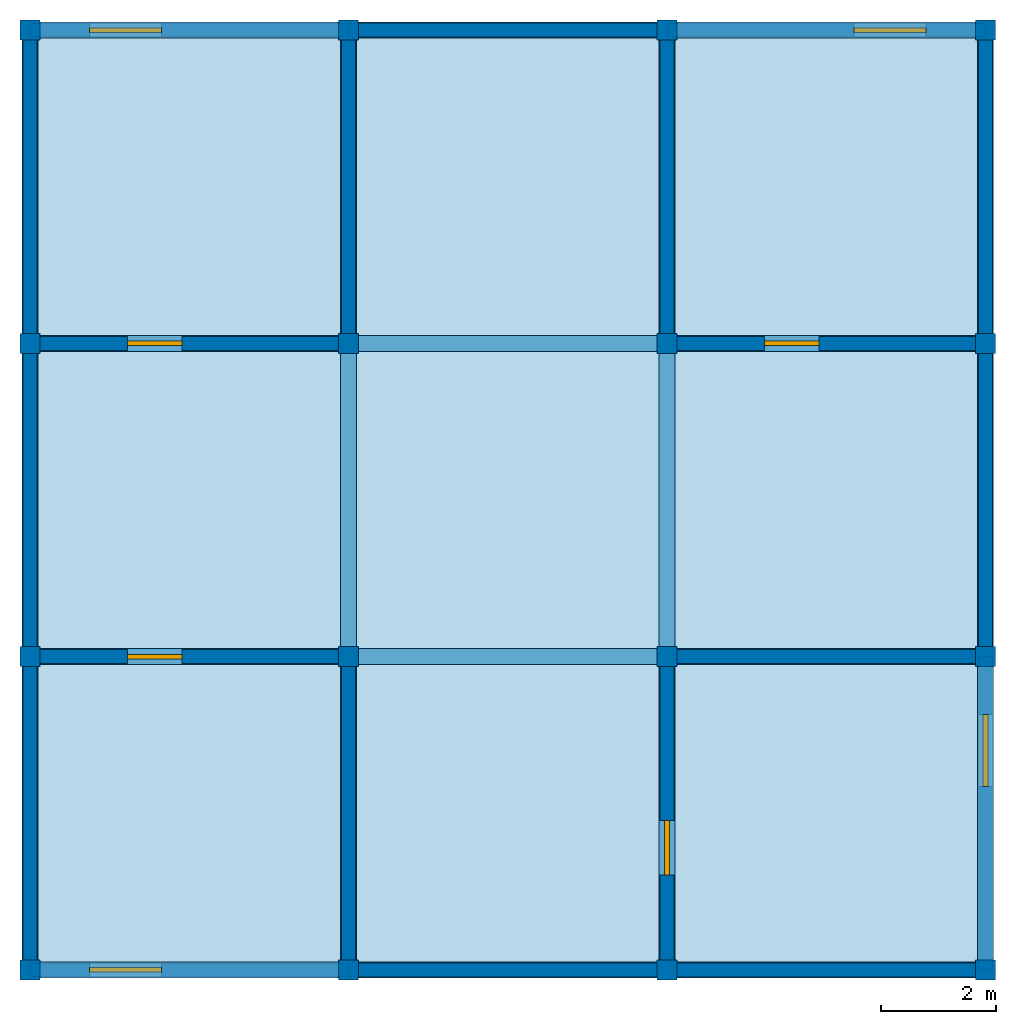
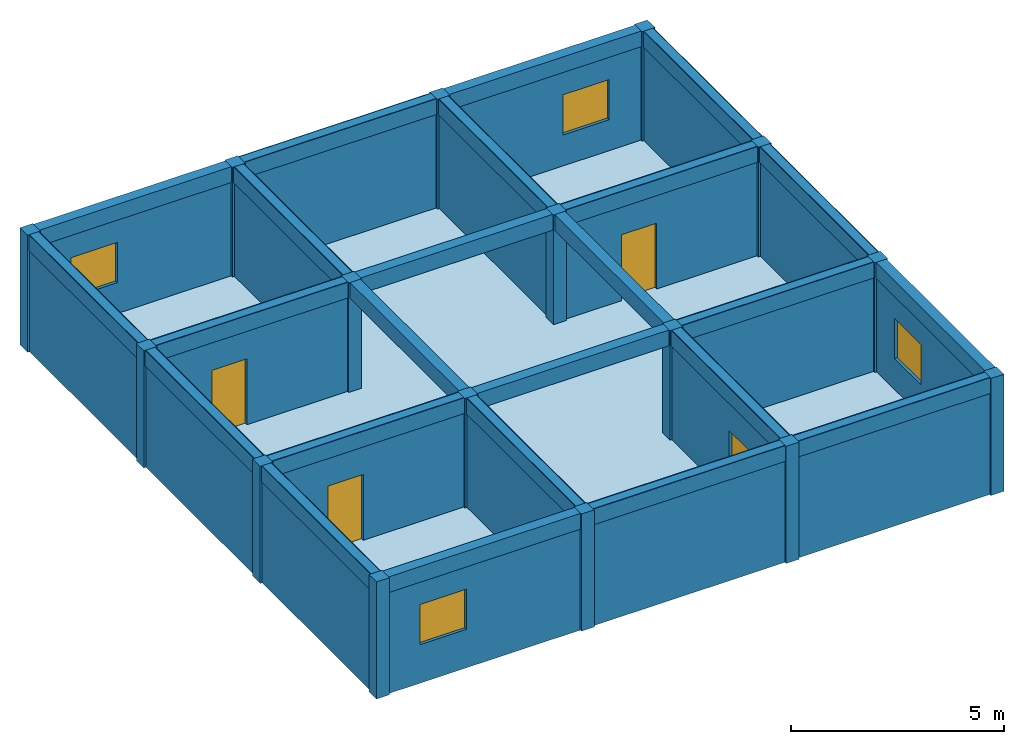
# One storey: 24 beams, 20 walls, 16 columns, 4 doors, 4 windows, 1 slab, 8 openings.
"""IFC4X3 building model written with IfcOpenShell, lengths in metres."""

from ifc_helpers import new_model, si_unit, frame, origin_with_axes, origin_2d, place, context, project, spatial, rectangle, extrude, material, element, fill, save


model = new_model("IFC4X3")

# Units and contexts
model_context = context("Model", 3, precision=1e-05, world=origin_with_axes())
ifc_project = project(units=[si_unit("LENGTHUNIT", "METRE"), si_unit("AREAUNIT", "SQUARE_METRE"), si_unit("VOLUMEUNIT", "CUBIC_METRE")], contexts=[model_context])

# Site, building, storey
site = spatial("IfcSite", under=ifc_project, Name="La Serena Parcel", CompositionType="ELEMENT")
building = spatial("IfcBuilding", under=site, Name="Atlas Building", CompositionType="ELEMENT")
storey = spatial("IfcBuildingStorey", under=building, Name="Level 7", CompositionType="ELEMENT", Elevation=20.09)

# Columns
ifc_material_1 = material(Name="Concrete")
column_1_placement = place(None, frame((-8.31, -8.175, 20.094), z_axis=(0.0, 0.0, 1.0), x_axis=(1.0, 0.0, 0.0)))
element("IfcColumn", 1, at=column_1_placement, inside=storey, material=ifc_material_1, Name="Column 7.1", ObjectType="Structural Column", PredefinedType="PILASTER", context=model_context, shape_type="SweptSolid", body=[
    extrude(rectangle(XDim=0.35, YDim=0.35, at=origin_2d()), origin_with_axes(), (0.0, 0.0, 1.0), 3.349),
])
column_2_placement = place(None, frame((-8.31, -2.725, 20.094), z_axis=(0.0, 0.0, 1.0), x_axis=(1.0, 0.0, 0.0)))
element("IfcColumn", 2, at=column_2_placement, inside=storey, material=ifc_material_1, Name="Column 7.2", ObjectType="Core Column", PredefinedType="PILASTER", context=model_context, shape_type="SweptSolid", body=[
    extrude(rectangle(XDim=0.35, YDim=0.35, at=origin_2d()), origin_with_axes(), (0.0, 0.0, 1.0), 3.349),
])
column_3_placement = place(None, frame((-8.31, 2.725, 20.094), z_axis=(0.0, 0.0, 1.0), x_axis=(1.0, 0.0, 0.0)))
element("IfcColumn", 3, at=column_3_placement, inside=storey, material=ifc_material_1, Name="Column 7.3", ObjectType="Corner Column", PredefinedType="NOTDEFINED", context=model_context, shape_type="SweptSolid", body=[
    extrude(rectangle(XDim=0.35, YDim=0.35, at=origin_2d()), origin_with_axes(), (0.0, 0.0, 1.0), 3.349),
])
column_4_placement = place(None, frame((-8.31, 8.175, 20.094), z_axis=(0.0, 0.0, 1.0), x_axis=(1.0, 0.0, 0.0)))
element("IfcColumn", 4, at=column_4_placement, inside=storey, material=ifc_material_1, Name="Column 7.4", ObjectType="Facade Column", PredefinedType="PILASTER", context=model_context, shape_type="SweptSolid", body=[
    extrude(rectangle(XDim=0.35, YDim=0.35, at=origin_2d()), origin_with_axes(), (0.0, 0.0, 1.0), 3.349),
])
column_5_placement = place(None, frame((-2.77, -8.175, 20.094), z_axis=(0.0, 0.0, 1.0), x_axis=(1.0, 0.0, 0.0)))
element("IfcColumn", 5, at=column_5_placement, inside=storey, material=ifc_material_1, Name="Column 7.5", ObjectType="Corner Column", PredefinedType="USERDEFINED", context=model_context, shape_type="SweptSolid", body=[
    extrude(rectangle(XDim=0.35, YDim=0.35, at=origin_2d()), origin_with_axes(), (0.0, 0.0, 1.0), 3.349),
])
column_6_placement = place(None, frame((-2.77, -2.725, 20.094), z_axis=(0.0, 0.0, 1.0), x_axis=(1.0, 0.0, 0.0)))
element("IfcColumn", 6, at=column_6_placement, inside=storey, material=ifc_material_1, Name="Column 7.6", ObjectType="Facade Column", PredefinedType="NOTDEFINED", context=model_context, shape_type="SweptSolid", body=[
    extrude(rectangle(XDim=0.35, YDim=0.35, at=origin_2d()), origin_with_axes(), (0.0, 0.0, 1.0), 3.349),
])
column_7_placement = place(None, frame((-2.77, 2.725, 20.094), z_axis=(0.0, 0.0, 1.0), x_axis=(1.0, 0.0, 0.0)))
element("IfcColumn", 7, at=column_7_placement, inside=storey, material=ifc_material_1, Name="Column 7.7", ObjectType="Core Column", PredefinedType="PILASTER", context=model_context, shape_type="SweptSolid", body=[
    extrude(rectangle(XDim=0.35, YDim=0.35, at=origin_2d()), origin_with_axes(), (0.0, 0.0, 1.0), 3.349),
])
column_8_placement = place(None, frame((-2.77, 8.175, 20.094), z_axis=(0.0, 0.0, 1.0), x_axis=(1.0, 0.0, 0.0)))
element("IfcColumn", 8, at=column_8_placement, inside=storey, material=ifc_material_1, Name="Column 7.8", ObjectType="Core Column", PredefinedType="USERDEFINED", context=model_context, shape_type="SweptSolid", body=[
    extrude(rectangle(XDim=0.35, YDim=0.35, at=origin_2d()), origin_with_axes(), (0.0, 0.0, 1.0), 3.349),
])
column_9_placement = place(None, frame((2.77, -8.175, 20.094), z_axis=(0.0, 0.0, 1.0), x_axis=(1.0, 0.0, 0.0)))
element("IfcColumn", 9, at=column_9_placement, inside=storey, material=ifc_material_1, Name="Column 7.9", ObjectType="Core Column", PredefinedType="PILASTER", context=model_context, shape_type="SweptSolid", body=[
    extrude(rectangle(XDim=0.35, YDim=0.35, at=origin_2d()), origin_with_axes(), (0.0, 0.0, 1.0), 3.349),
])
column_10_placement = place(None, frame((2.77, -2.725, 20.094), z_axis=(0.0, 0.0, 1.0), x_axis=(1.0, 0.0, 0.0)))
element("IfcColumn", 10, at=column_10_placement, inside=storey, material=ifc_material_1, Name="Column 7.10", ObjectType="Corner Column", PredefinedType="PILASTER", context=model_context, shape_type="SweptSolid", body=[
    extrude(rectangle(XDim=0.35, YDim=0.35, at=origin_2d()), origin_with_axes(), (0.0, 0.0, 1.0), 3.349),
])
column_11_placement = place(None, frame((2.77, 2.725, 20.094), z_axis=(0.0, 0.0, 1.0), x_axis=(1.0, 0.0, 0.0)))
element("IfcColumn", 11, at=column_11_placement, inside=storey, material=ifc_material_1, Name="Column 7.11", ObjectType="Core Column", PredefinedType="COLUMN", context=model_context, shape_type="SweptSolid", body=[
    extrude(rectangle(XDim=0.35, YDim=0.35, at=origin_2d()), origin_with_axes(), (0.0, 0.0, 1.0), 3.349),
])
column_12_placement = place(None, frame((2.77, 8.175, 20.094), z_axis=(0.0, 0.0, 1.0), x_axis=(1.0, 0.0, 0.0)))
element("IfcColumn", 12, at=column_12_placement, inside=storey, material=ifc_material_1, Name="Column 7.12", ObjectType="Corner Column", PredefinedType="USERDEFINED", context=model_context, shape_type="SweptSolid", body=[
    extrude(rectangle(XDim=0.35, YDim=0.35, at=origin_2d()), origin_with_axes(), (0.0, 0.0, 1.0), 3.349),
])
column_13_placement = place(None, frame((8.31, -8.175, 20.094), z_axis=(0.0, 0.0, 1.0), x_axis=(1.0, 0.0, 0.0)))
element("IfcColumn", 13, at=column_13_placement, inside=storey, material=ifc_material_1, Name="Column 7.13", ObjectType="Core Column", PredefinedType="USERDEFINED", context=model_context, shape_type="SweptSolid", body=[
    extrude(rectangle(XDim=0.35, YDim=0.35, at=origin_2d()), origin_with_axes(), (0.0, 0.0, 1.0), 3.349),
])
column_14_placement = place(None, frame((8.31, -2.725, 20.094), z_axis=(0.0, 0.0, 1.0), x_axis=(1.0, 0.0, 0.0)))
element("IfcColumn", 14, at=column_14_placement, inside=storey, material=ifc_material_1, Name="Column 7.14", ObjectType="Structural Column", PredefinedType="COLUMN", context=model_context, shape_type="SweptSolid", body=[
    extrude(rectangle(XDim=0.35, YDim=0.35, at=origin_2d()), origin_with_axes(), (0.0, 0.0, 1.0), 3.349),
])
column_15_placement = place(None, frame((8.31, 2.725, 20.094), z_axis=(0.0, 0.0, 1.0), x_axis=(1.0, 0.0, 0.0)))
element("IfcColumn", 15, at=column_15_placement, inside=storey, material=ifc_material_1, Name="Column 7.15", ObjectType="Corner Column", PredefinedType="PILASTER", context=model_context, shape_type="SweptSolid", body=[
    extrude(rectangle(XDim=0.35, YDim=0.35, at=origin_2d()), origin_with_axes(), (0.0, 0.0, 1.0), 3.349),
])
column_16_placement = place(None, frame((8.31, 8.175, 20.094), z_axis=(0.0, 0.0, 1.0), x_axis=(1.0, 0.0, 0.0)))
element("IfcColumn", 16, at=column_16_placement, inside=storey, material=ifc_material_1, Name="Column 7.16", ObjectType="Facade Column", PredefinedType="USERDEFINED", context=model_context, shape_type="SweptSolid", body=[
    extrude(rectangle(XDim=0.35, YDim=0.35, at=origin_2d()), origin_with_axes(), (0.0, 0.0, 1.0), 3.349),
])

# Beams
ifc_material_2 = material(Name="Timber")
beam_1_placement = place(None, frame((-5.54, -8.175, 22.993), z_axis=(0.0, 0.0, 1.0), x_axis=(1.0, 0.0, 0.0)))
element("IfcBeam", 17, at=beam_1_placement, inside=storey, material=ifc_material_2, Name="Beam 7.1", ObjectType="Primary Beam", PredefinedType="NOTDEFINED", context=model_context, shape_type="SweptSolid", body=[
    extrude(rectangle(XDim=5.54, YDim=0.28, at=origin_2d()), origin_with_axes(), (0.0, 0.0, 1.0), 0.45),
])
beam_2_placement = place(None, frame((0.0, -8.175, 22.993), z_axis=(0.0, 0.0, 1.0), x_axis=(1.0, 0.0, 0.0)))
element("IfcBeam", 18, at=beam_2_placement, inside=storey, material=ifc_material_2, Name="Beam 7.2", ObjectType="Transfer Beam", PredefinedType="T_BEAM", context=model_context, shape_type="SweptSolid", body=[
    extrude(rectangle(XDim=5.54, YDim=0.28, at=origin_2d()), origin_with_axes(), (0.0, 0.0, 1.0), 0.45),
])
beam_3_placement = place(None, frame((5.54, -8.175, 22.993), z_axis=(0.0, 0.0, 1.0), x_axis=(1.0, 0.0, 0.0)))
element("IfcBeam", 19, at=beam_3_placement, inside=storey, material=ifc_material_2, Name="Beam 7.3", ObjectType="Ridge Beam", PredefinedType="T_BEAM", context=model_context, shape_type="SweptSolid", body=[
    extrude(rectangle(XDim=5.54, YDim=0.28, at=origin_2d()), origin_with_axes(), (0.0, 0.0, 1.0), 0.45),
])
beam_4_placement = place(None, frame((-5.54, -2.725, 22.993), z_axis=(0.0, 0.0, 1.0), x_axis=(1.0, 0.0, 0.0)))
element("IfcBeam", 20, at=beam_4_placement, inside=storey, material=ifc_material_2, Name="Beam 7.4", ObjectType="Secondary Beam", PredefinedType="JOIST", context=model_context, shape_type="SweptSolid", body=[
    extrude(rectangle(XDim=5.54, YDim=0.28, at=origin_2d()), origin_with_axes(), (0.0, 0.0, 1.0), 0.45),
])
beam_5_placement = place(None, frame((0.0, -2.725, 22.993), z_axis=(0.0, 0.0, 1.0), x_axis=(1.0, 0.0, 0.0)))
element("IfcBeam", 21, at=beam_5_placement, inside=storey, material=ifc_material_2, Name="Beam 7.5", ObjectType="Ridge Beam", PredefinedType="NOTDEFINED", context=model_context, shape_type="SweptSolid", body=[
    extrude(rectangle(XDim=5.54, YDim=0.28, at=origin_2d()), origin_with_axes(), (0.0, 0.0, 1.0), 0.45),
])
beam_6_placement = place(None, frame((5.54, -2.725, 22.993), z_axis=(0.0, 0.0, 1.0), x_axis=(1.0, 0.0, 0.0)))
element("IfcBeam", 22, at=beam_6_placement, inside=storey, material=ifc_material_2, Name="Beam 7.6", ObjectType="Transfer Beam", PredefinedType="SPANDREL", context=model_context, shape_type="SweptSolid", body=[
    extrude(rectangle(XDim=5.54, YDim=0.28, at=origin_2d()), origin_with_axes(), (0.0, 0.0, 1.0), 0.45),
])
beam_7_placement = place(None, frame((-5.54, 2.725, 22.993), z_axis=(0.0, 0.0, 1.0), x_axis=(1.0, 0.0, 0.0)))
element("IfcBeam", 23, at=beam_7_placement, inside=storey, material=ifc_material_2, Name="Beam 7.7", ObjectType="Secondary Beam", PredefinedType="T_BEAM", context=model_context, shape_type="SweptSolid", body=[
    extrude(rectangle(XDim=5.54, YDim=0.28, at=origin_2d()), origin_with_axes(), (0.0, 0.0, 1.0), 0.45),
])
beam_8_placement = place(None, frame((0.0, 2.725, 22.993), z_axis=(0.0, 0.0, 1.0), x_axis=(1.0, 0.0, 0.0)))
element("IfcBeam", 24, at=beam_8_placement, inside=storey, material=ifc_material_2, Name="Beam 7.8", ObjectType="Rafter Beam", PredefinedType="SPANDREL", context=model_context, shape_type="SweptSolid", body=[
    extrude(rectangle(XDim=5.54, YDim=0.28, at=origin_2d()), origin_with_axes(), (0.0, 0.0, 1.0), 0.45),
])
beam_9_placement = place(None, frame((5.54, 2.725, 22.993), z_axis=(0.0, 0.0, 1.0), x_axis=(1.0, 0.0, 0.0)))
element("IfcBeam", 25, at=beam_9_placement, inside=storey, material=ifc_material_2, Name="Beam 7.9", ObjectType="Primary Beam", PredefinedType="BEAM", context=model_context, shape_type="SweptSolid", body=[
    extrude(rectangle(XDim=5.54, YDim=0.28, at=origin_2d()), origin_with_axes(), (0.0, 0.0, 1.0), 0.45),
])
beam_10_placement = place(None, frame((-5.54, 8.175, 22.993), z_axis=(0.0, 0.0, 1.0), x_axis=(1.0, 0.0, 0.0)))
element("IfcBeam", 26, at=beam_10_placement, inside=storey, material=ifc_material_2, Name="Beam 7.10", ObjectType="Secondary Beam", PredefinedType="HOLLOWCORE", context=model_context, shape_type="SweptSolid", body=[
    extrude(rectangle(XDim=5.54, YDim=0.28, at=origin_2d()), origin_with_axes(), (0.0, 0.0, 1.0), 0.45),
])
beam_11_placement = place(None, frame((0.0, 8.175, 22.993), z_axis=(0.0, 0.0, 1.0), x_axis=(1.0, 0.0, 0.0)))
element("IfcBeam", 27, at=beam_11_placement, inside=storey, material=ifc_material_2, Name="Beam 7.11", ObjectType="Ridge Beam", PredefinedType="JOIST", context=model_context, shape_type="SweptSolid", body=[
    extrude(rectangle(XDim=5.54, YDim=0.28, at=origin_2d()), origin_with_axes(), (0.0, 0.0, 1.0), 0.45),
])
beam_12_placement = place(None, frame((5.54, 8.175, 22.993), z_axis=(0.0, 0.0, 1.0), x_axis=(1.0, 0.0, 0.0)))
element("IfcBeam", 28, at=beam_12_placement, inside=storey, material=ifc_material_2, Name="Beam 7.12", ObjectType="Ridge Beam", PredefinedType="BEAM", context=model_context, shape_type="SweptSolid", body=[
    extrude(rectangle(XDim=5.54, YDim=0.28, at=origin_2d()), origin_with_axes(), (0.0, 0.0, 1.0), 0.45),
])
beam_13_placement = place(None, frame((-8.31, -5.45, 22.993), z_axis=(0.0, 0.0, 1.0), x_axis=(0.0, 1.0, 0.0)))
element("IfcBeam", 29, at=beam_13_placement, inside=storey, material=ifc_material_2, Name="Beam 7.13", ObjectType="Primary Beam", PredefinedType="T_BEAM", context=model_context, shape_type="SweptSolid", body=[
    extrude(rectangle(XDim=5.45, YDim=0.28, at=origin_2d()), origin_with_axes(), (0.0, 0.0, 1.0), 0.45),
])
beam_14_placement = place(None, frame((-8.31, 0.0, 22.993), z_axis=(0.0, 0.0, 1.0), x_axis=(0.0, 1.0, 0.0)))
element("IfcBeam", 30, at=beam_14_placement, inside=storey, material=ifc_material_2, Name="Beam 7.14", ObjectType="Secondary Beam", PredefinedType="HOLLOWCORE", context=model_context, shape_type="SweptSolid", body=[
    extrude(rectangle(XDim=5.45, YDim=0.28, at=origin_2d()), origin_with_axes(), (0.0, 0.0, 1.0), 0.45),
])
beam_15_placement = place(None, frame((-8.31, 5.45, 22.993), z_axis=(0.0, 0.0, 1.0), x_axis=(0.0, 1.0, 0.0)))
element("IfcBeam", 31, at=beam_15_placement, inside=storey, material=ifc_material_2, Name="Beam 7.15", ObjectType="Ridge Beam", PredefinedType="T_BEAM", context=model_context, shape_type="SweptSolid", body=[
    extrude(rectangle(XDim=5.45, YDim=0.28, at=origin_2d()), origin_with_axes(), (0.0, 0.0, 1.0), 0.45),
])
beam_16_placement = place(None, frame((-2.77, -5.45, 22.993), z_axis=(0.0, 0.0, 1.0), x_axis=(0.0, 1.0, 0.0)))
element("IfcBeam", 32, at=beam_16_placement, inside=storey, material=ifc_material_2, Name="Beam 7.16", ObjectType="Ridge Beam", PredefinedType="BEAM", context=model_context, shape_type="SweptSolid", body=[
    extrude(rectangle(XDim=5.45, YDim=0.28, at=origin_2d()), origin_with_axes(), (0.0, 0.0, 1.0), 0.45),
])
beam_17_placement = place(None, frame((-2.77, 0.0, 22.993), z_axis=(0.0, 0.0, 1.0), x_axis=(0.0, 1.0, 0.0)))
element("IfcBeam", 33, at=beam_17_placement, inside=storey, material=ifc_material_2, Name="Beam 7.17", ObjectType="Transfer Beam", PredefinedType="LINTEL", context=model_context, shape_type="SweptSolid", body=[
    extrude(rectangle(XDim=5.45, YDim=0.28, at=origin_2d()), origin_with_axes(), (0.0, 0.0, 1.0), 0.45),
])
beam_18_placement = place(None, frame((-2.77, 5.45, 22.993), z_axis=(0.0, 0.0, 1.0), x_axis=(0.0, 1.0, 0.0)))
element("IfcBeam", 34, at=beam_18_placement, inside=storey, material=ifc_material_2, Name="Beam 7.18", ObjectType="Transfer Beam", PredefinedType="T_BEAM", context=model_context, shape_type="SweptSolid", body=[
    extrude(rectangle(XDim=5.45, YDim=0.28, at=origin_2d()), origin_with_axes(), (0.0, 0.0, 1.0), 0.45),
])
beam_19_placement = place(None, frame((2.77, -5.45, 22.993), z_axis=(0.0, 0.0, 1.0), x_axis=(0.0, 1.0, 0.0)))
element("IfcBeam", 35, at=beam_19_placement, inside=storey, material=ifc_material_2, Name="Beam 7.19", ObjectType="Secondary Beam", PredefinedType="BEAM", context=model_context, shape_type="SweptSolid", body=[
    extrude(rectangle(XDim=5.45, YDim=0.28, at=origin_2d()), origin_with_axes(), (0.0, 0.0, 1.0), 0.45),
])
beam_20_placement = place(None, frame((2.77, 0.0, 22.993), z_axis=(0.0, 0.0, 1.0), x_axis=(0.0, 1.0, 0.0)))
element("IfcBeam", 36, at=beam_20_placement, inside=storey, material=ifc_material_2, Name="Beam 7.20", ObjectType="Primary Beam", PredefinedType="USERDEFINED", context=model_context, shape_type="SweptSolid", body=[
    extrude(rectangle(XDim=5.45, YDim=0.28, at=origin_2d()), origin_with_axes(), (0.0, 0.0, 1.0), 0.45),
])
beam_21_placement = place(None, frame((2.77, 5.45, 22.993), z_axis=(0.0, 0.0, 1.0), x_axis=(0.0, 1.0, 0.0)))
element("IfcBeam", 37, at=beam_21_placement, inside=storey, material=ifc_material_2, Name="Beam 7.21", ObjectType="Transfer Beam", PredefinedType="USERDEFINED", context=model_context, shape_type="SweptSolid", body=[
    extrude(rectangle(XDim=5.45, YDim=0.28, at=origin_2d()), origin_with_axes(), (0.0, 0.0, 1.0), 0.45),
])
beam_22_placement = place(None, frame((8.31, -5.45, 22.993), z_axis=(0.0, 0.0, 1.0), x_axis=(0.0, 1.0, 0.0)))
element("IfcBeam", 38, at=beam_22_placement, inside=storey, material=ifc_material_2, Name="Beam 7.22", ObjectType="Transfer Beam", PredefinedType="HOLLOWCORE", context=model_context, shape_type="SweptSolid", body=[
    extrude(rectangle(XDim=5.45, YDim=0.28, at=origin_2d()), origin_with_axes(), (0.0, 0.0, 1.0), 0.45),
])
beam_23_placement = place(None, frame((8.31, 0.0, 22.993), z_axis=(0.0, 0.0, 1.0), x_axis=(0.0, 1.0, 0.0)))
element("IfcBeam", 39, at=beam_23_placement, inside=storey, material=ifc_material_2, Name="Beam 7.23", ObjectType="Ridge Beam", PredefinedType="HOLLOWCORE", context=model_context, shape_type="SweptSolid", body=[
    extrude(rectangle(XDim=5.45, YDim=0.28, at=origin_2d()), origin_with_axes(), (0.0, 0.0, 1.0), 0.45),
])
beam_24_placement = place(None, frame((8.31, 5.45, 22.993), z_axis=(0.0, 0.0, 1.0), x_axis=(0.0, 1.0, 0.0)))
element("IfcBeam", 40, at=beam_24_placement, inside=storey, material=ifc_material_2, Name="Beam 7.24", ObjectType="Rafter Beam", PredefinedType="JOIST", context=model_context, shape_type="SweptSolid", body=[
    extrude(rectangle(XDim=5.45, YDim=0.28, at=origin_2d()), origin_with_axes(), (0.0, 0.0, 1.0), 0.45),
])

# Slab
slab_placement = place(None, frame((0.0, 0.0, 20.09), z_axis=(0.0, 0.0, 1.0), x_axis=(1.0, 0.0, 0.0)))
element("IfcSlab", 41, at=slab_placement, inside=storey, material=ifc_material_2, Name="Slab 7", ObjectType="Floor Slab", PredefinedType="FLOOR", context=model_context, shape_type="SweptSolid", body=[
    extrude(rectangle(XDim=16.62, YDim=16.35, at=origin_2d()), origin_with_axes(), (0.0, 0.0, 1.0), 0.22),
])

# Wall, opening, door
ifc_material_3 = material(Name="Brick")
wall_1_placement = place(None, frame((-5.54, -2.725, 20.094), z_axis=(0.0, 0.0, 1.0), x_axis=(1.0, 0.0, 0.0)))
wall_1 = element("IfcWall", 42, at=wall_1_placement, inside=storey, material=ifc_material_3, Name="Wall 7.1", ObjectType="Corridor Partition", PredefinedType="ELEMENTEDWALL", context=model_context, shape_type="SweptSolid", body=[
    extrude(rectangle(XDim=5.54, YDim=0.243765, at=origin_2d()), origin_with_axes(), (0.0, 0.0, 1.0), 3.349),
])
opening_1_placement = place(None, frame((-6.14, -2.725, 20.094), z_axis=(0.0, 0.0, 1.0), x_axis=(1.0, 0.0, 0.0)))
opening_1 = element("IfcOpeningElement", 43, at=opening_1_placement, cuts=wall_1, Name="Door opening 7.1", ObjectType="Door Opening", PredefinedType="OPENING", context=model_context, shape_type="SweptSolid", body=[
    extrude(rectangle(XDim=0.95, YDim=0.323765, at=origin_2d()), origin_with_axes(), (0.0, 0.0, 1.0), 2.1),
])
door_1_placement = place(None, frame((-6.14, -2.725, 20.094), z_axis=(0.0, 0.0, 1.0), x_axis=(1.0, 0.0, 0.0)))
door_1 = element("IfcDoor", 44, at=door_1_placement, inside=storey, Name="Door 7.1", ObjectType="Entry Door", OverallHeight=2.1, OverallWidth=0.95, context=model_context, shape_type="SweptSolid", body=[
    extrude(rectangle(XDim=0.95, YDim=0.08, at=origin_2d()), origin_with_axes(), (0.0, 0.0, 1.0), 2.1),
])
fill(opening_1, door_1)

# Wall
ifc_material_4 = material(Name="CLT")
wall_2_placement = place(None, frame((-2.77, -5.45, 20.094), z_axis=(0.0, 0.0, 1.0), x_axis=(0.0, 1.0, 0.0)))
element("IfcWall", 45, at=wall_2_placement, inside=storey, material=ifc_material_4, Name="Wall 7.2", ObjectType="Corridor Partition", PredefinedType="USERDEFINED", context=model_context, shape_type="SweptSolid", body=[
    extrude(rectangle(XDim=5.45, YDim=0.243765, at=origin_2d()), origin_with_axes(), (0.0, 0.0, 1.0), 3.349),
])

# Wall, opening, window
wall_3_placement = place(None, frame((-5.54, -8.175, 20.094), z_axis=(0.0, 0.0, 1.0), x_axis=(1.0, 0.0, 0.0)))
wall_3 = element("IfcWall", 46, at=wall_3_placement, inside=storey, material=ifc_material_4, Name="Wall 7.3", ObjectType="Exterior Wall", PredefinedType="MOVABLE", context=model_context, shape_type="SweptSolid", body=[
    extrude(rectangle(XDim=5.54, YDim=0.243765, at=origin_2d()), origin_with_axes(), (0.0, 0.0, 1.0), 3.349),
])
opening_2_placement = place(None, frame((-6.648, -8.175, 21.194), z_axis=(0.0, 0.0, 1.0), x_axis=(1.0, 0.0, 0.0)))
opening_2 = element("IfcOpeningElement", 47, at=opening_2_placement, cuts=wall_3, Name="Window opening 7.2", ObjectType="Window Opening", PredefinedType="OPENING", context=model_context, shape_type="SweptSolid", body=[
    extrude(rectangle(XDim=1.25, YDim=0.323765, at=origin_2d()), origin_with_axes(), (0.0, 0.0, 1.0), 1.15),
])
window_1_placement = place(None, frame((-6.648, -8.175, 21.194), z_axis=(0.0, 0.0, 1.0), x_axis=(1.0, 0.0, 0.0)))
window_1 = element("IfcWindow", 48, at=window_1_placement, inside=storey, Name="Window 7.2", ObjectType="Curtain Window", OverallHeight=1.15, OverallWidth=1.25, context=model_context, shape_type="SweptSolid", body=[
    extrude(rectangle(XDim=1.25, YDim=0.08, at=origin_2d()), origin_with_axes(), (0.0, 0.0, 1.0), 1.15),
])
fill(opening_2, window_1)

# Wall
wall_4_placement = place(None, frame((-8.31, -5.45, 20.094), z_axis=(0.0, 0.0, 1.0), x_axis=(0.0, 1.0, 0.0)))
element("IfcWall", 49, at=wall_4_placement, inside=storey, material=ifc_material_4, Name="Wall 7.4", ObjectType="Exterior Wall", PredefinedType="POLYGONAL", context=model_context, shape_type="SweptSolid", body=[
    extrude(rectangle(XDim=5.45, YDim=0.243765, at=origin_2d()), origin_with_axes(), (0.0, 0.0, 1.0), 3.349),
])

# Wall, opening, door
wall_5_placement = place(None, frame((2.77, -5.45, 20.094), z_axis=(0.0, 0.0, 1.0), x_axis=(0.0, 1.0, 0.0)))
wall_5 = element("IfcWall", 50, at=wall_5_placement, inside=storey, material=ifc_material_3, Name="Wall 7.5", ObjectType="Corridor Partition", PredefinedType="USERDEFINED", context=model_context, shape_type="SweptSolid", body=[
    extrude(rectangle(XDim=5.45, YDim=0.243765, at=origin_2d()), origin_with_axes(), (0.0, 0.0, 1.0), 3.349),
])
opening_3_placement = place(None, frame((2.77, -6.05, 20.094), z_axis=(0.0, 0.0, 1.0), x_axis=(0.0, 1.0, 0.0)))
opening_3 = element("IfcOpeningElement", 51, at=opening_3_placement, cuts=wall_5, Name="Door opening 7.3", ObjectType="Door Opening", PredefinedType="OPENING", context=model_context, shape_type="SweptSolid", body=[
    extrude(rectangle(XDim=0.95, YDim=0.323765, at=origin_2d()), origin_with_axes(), (0.0, 0.0, 1.0), 2.1),
])
door_2_placement = place(None, frame((2.77, -6.05, 20.094), z_axis=(0.0, 0.0, 1.0), x_axis=(0.0, 1.0, 0.0)))
door_2 = element("IfcDoor", 52, at=door_2_placement, inside=storey, Name="Door 7.3", ObjectType="Interior Door", OverallHeight=2.1, OverallWidth=0.95, context=model_context, shape_type="SweptSolid", body=[
    extrude(rectangle(XDim=0.95, YDim=0.08, at=origin_2d()), origin_with_axes(), (0.0, 0.0, 1.0), 2.1),
])
fill(opening_3, door_2)

# Walls
wall_6_placement = place(None, frame((0.0, -8.175, 20.094), z_axis=(0.0, 0.0, 1.0), x_axis=(1.0, 0.0, 0.0)))
element("IfcWall", 53, at=wall_6_placement, inside=storey, material=ifc_material_4, Name="Wall 7.6", ObjectType="Exterior Wall", PredefinedType="PARAPET", context=model_context, shape_type="SweptSolid", body=[
    extrude(rectangle(XDim=5.54, YDim=0.243765, at=origin_2d()), origin_with_axes(), (0.0, 0.0, 1.0), 3.349),
])
wall_7_placement = place(None, frame((5.54, -2.725, 20.094), z_axis=(0.0, 0.0, 1.0), x_axis=(1.0, 0.0, 0.0)))
element("IfcWall", 54, at=wall_7_placement, inside=storey, material=ifc_material_4, Name="Wall 7.7", ObjectType="Corridor Partition", PredefinedType="USERDEFINED", context=model_context, shape_type="SweptSolid", body=[
    extrude(rectangle(XDim=5.54, YDim=0.243765, at=origin_2d()), origin_with_axes(), (0.0, 0.0, 1.0), 3.349),
])

# Wall, opening, window
wall_8_placement = place(None, frame((8.31, -5.45, 20.094), z_axis=(0.0, 0.0, 1.0), x_axis=(0.0, 1.0, 0.0)))
wall_8 = element("IfcWall", 55, at=wall_8_placement, inside=storey, material=ifc_material_4, Name="Wall 7.8", ObjectType="Exterior Wall", PredefinedType="SHEAR", context=model_context, shape_type="SweptSolid", body=[
    extrude(rectangle(XDim=5.45, YDim=0.243765, at=origin_2d()), origin_with_axes(), (0.0, 0.0, 1.0), 3.349),
])
opening_4_placement = place(None, frame((8.31, -4.36, 21.194), z_axis=(0.0, 0.0, 1.0), x_axis=(0.0, 1.0, 0.0)))
opening_4 = element("IfcOpeningElement", 56, at=opening_4_placement, cuts=wall_8, Name="Window opening 7.4", ObjectType="Window Opening", PredefinedType="OPENING", context=model_context, shape_type="SweptSolid", body=[
    extrude(rectangle(XDim=1.25, YDim=0.323765, at=origin_2d()), origin_with_axes(), (0.0, 0.0, 1.0), 1.15),
])
window_2_placement = place(None, frame((8.31, -4.36, 21.194), z_axis=(0.0, 0.0, 1.0), x_axis=(0.0, 1.0, 0.0)))
window_2 = element("IfcWindow", 57, at=window_2_placement, inside=storey, Name="Window 7.4", ObjectType="Curtain Window", OverallHeight=1.15, OverallWidth=1.25, context=model_context, shape_type="SweptSolid", body=[
    extrude(rectangle(XDim=1.25, YDim=0.08, at=origin_2d()), origin_with_axes(), (0.0, 0.0, 1.0), 1.15),
])
fill(opening_4, window_2)

# Wall
wall_9_placement = place(None, frame((5.54, -8.175, 20.094), z_axis=(0.0, 0.0, 1.0), x_axis=(1.0, 0.0, 0.0)))
element("IfcWall", 58, at=wall_9_placement, inside=storey, material=ifc_material_1, Name="Wall 7.9", ObjectType="Exterior Wall", PredefinedType="MOVABLE", context=model_context, shape_type="SweptSolid", body=[
    extrude(rectangle(XDim=5.54, YDim=0.243765, at=origin_2d()), origin_with_axes(), (0.0, 0.0, 1.0), 3.349),
])

# Wall, opening, door
wall_10_placement = place(None, frame((-5.54, 2.725, 20.094), z_axis=(0.0, 0.0, 1.0), x_axis=(1.0, 0.0, 0.0)))
wall_10 = element("IfcWall", 59, at=wall_10_placement, inside=storey, material=ifc_material_1, Name="Wall 7.10", ObjectType="Corridor Partition", PredefinedType="ELEMENTEDWALL", context=model_context, shape_type="SweptSolid", body=[
    extrude(rectangle(XDim=5.54, YDim=0.243765, at=origin_2d()), origin_with_axes(), (0.0, 0.0, 1.0), 3.349),
])
opening_5_placement = place(None, frame((-6.14, 2.725, 20.094), z_axis=(0.0, 0.0, 1.0), x_axis=(1.0, 0.0, 0.0)))
opening_5 = element("IfcOpeningElement", 60, at=opening_5_placement, cuts=wall_10, Name="Door opening 7.5", ObjectType="Door Opening", PredefinedType="OPENING", context=model_context, shape_type="SweptSolid", body=[
    extrude(rectangle(XDim=0.95, YDim=0.323765, at=origin_2d()), origin_with_axes(), (0.0, 0.0, 1.0), 2.1),
])
door_3_placement = place(None, frame((-6.14, 2.725, 20.094), z_axis=(0.0, 0.0, 1.0), x_axis=(1.0, 0.0, 0.0)))
door_3 = element("IfcDoor", 61, at=door_3_placement, inside=storey, Name="Door 7.5", ObjectType="Entry Door", OverallHeight=2.1, OverallWidth=0.95, context=model_context, shape_type="SweptSolid", body=[
    extrude(rectangle(XDim=0.95, YDim=0.08, at=origin_2d()), origin_with_axes(), (0.0, 0.0, 1.0), 2.1),
])
fill(opening_5, door_3)

# Wall
wall_11_placement = place(None, frame((-8.31, 0.0, 20.094), z_axis=(0.0, 0.0, 1.0), x_axis=(0.0, 1.0, 0.0)))
element("IfcWall", 62, at=wall_11_placement, inside=storey, material=ifc_material_4, Name="Wall 7.11", ObjectType="Exterior Wall", PredefinedType="USERDEFINED", context=model_context, shape_type="SweptSolid", body=[
    extrude(rectangle(XDim=5.45, YDim=0.243765, at=origin_2d()), origin_with_axes(), (0.0, 0.0, 1.0), 3.349),
])

# Wall, opening, door
wall_12_placement = place(None, frame((5.54, 2.725, 20.094), z_axis=(0.0, 0.0, 1.0), x_axis=(1.0, 0.0, 0.0)))
wall_12 = element("IfcWall", 63, at=wall_12_placement, inside=storey, material=ifc_material_4, Name="Wall 7.12", ObjectType="Corridor Partition", PredefinedType="PARAPET", context=model_context, shape_type="SweptSolid", body=[
    extrude(rectangle(XDim=5.54, YDim=0.243765, at=origin_2d()), origin_with_axes(), (0.0, 0.0, 1.0), 3.349),
])
opening_6_placement = place(None, frame((4.94, 2.725, 20.094), z_axis=(0.0, 0.0, 1.0), x_axis=(1.0, 0.0, 0.0)))
opening_6 = element("IfcOpeningElement", 64, at=opening_6_placement, cuts=wall_12, Name="Door opening 7.7", ObjectType="Door Opening", PredefinedType="OPENING", context=model_context, shape_type="SweptSolid", body=[
    extrude(rectangle(XDim=0.95, YDim=0.323765, at=origin_2d()), origin_with_axes(), (0.0, 0.0, 1.0), 2.1),
])
door_4_placement = place(None, frame((4.94, 2.725, 20.094), z_axis=(0.0, 0.0, 1.0), x_axis=(1.0, 0.0, 0.0)))
door_4 = element("IfcDoor", 65, at=door_4_placement, inside=storey, Name="Door 7.7", ObjectType="Fire Door", OverallHeight=2.1, OverallWidth=0.95, context=model_context, shape_type="SweptSolid", body=[
    extrude(rectangle(XDim=0.95, YDim=0.08, at=origin_2d()), origin_with_axes(), (0.0, 0.0, 1.0), 2.1),
])
fill(opening_6, door_4)

# Wall
ifc_material_5 = material(Name="Gypsum")
wall_13_placement = place(None, frame((8.31, 0.0, 20.094), z_axis=(0.0, 0.0, 1.0), x_axis=(0.0, 1.0, 0.0)))
element("IfcWall", 66, at=wall_13_placement, inside=storey, material=ifc_material_5, Name="Wall 7.13", ObjectType="Exterior Wall", PredefinedType="ELEMENTEDWALL", context=model_context, shape_type="SweptSolid", body=[
    extrude(rectangle(XDim=5.45, YDim=0.243765, at=origin_2d()), origin_with_axes(), (0.0, 0.0, 1.0), 3.349),
])

# Wall, opening, window
wall_14_placement = place(None, frame((-5.54, 8.175, 20.094), z_axis=(0.0, 0.0, 1.0), x_axis=(1.0, 0.0, 0.0)))
wall_14 = element("IfcWall", 67, at=wall_14_placement, inside=storey, material=ifc_material_4, Name="Wall 7.14", ObjectType="Exterior Wall", PredefinedType="SHEAR", context=model_context, shape_type="SweptSolid", body=[
    extrude(rectangle(XDim=5.54, YDim=0.243765, at=origin_2d()), origin_with_axes(), (0.0, 0.0, 1.0), 3.349),
])
opening_7_placement = place(None, frame((-6.648, 8.175, 21.194), z_axis=(0.0, 0.0, 1.0), x_axis=(1.0, 0.0, 0.0)))
opening_7 = element("IfcOpeningElement", 68, at=opening_7_placement, cuts=wall_14, Name="Window opening 7.6", ObjectType="Window Opening", PredefinedType="OPENING", context=model_context, shape_type="SweptSolid", body=[
    extrude(rectangle(XDim=1.25, YDim=0.323765, at=origin_2d()), origin_with_axes(), (0.0, 0.0, 1.0), 1.15),
])
window_3_placement = place(None, frame((-6.648, 8.175, 21.194), z_axis=(0.0, 0.0, 1.0), x_axis=(1.0, 0.0, 0.0)))
window_3 = element("IfcWindow", 69, at=window_3_placement, inside=storey, Name="Window 7.6", ObjectType="Fixed Window", OverallHeight=1.15, OverallWidth=1.25, context=model_context, shape_type="SweptSolid", body=[
    extrude(rectangle(XDim=1.25, YDim=0.08, at=origin_2d()), origin_with_axes(), (0.0, 0.0, 1.0), 1.15),
])
fill(opening_7, window_3)

# Walls
wall_15_placement = place(None, frame((-2.77, 5.45, 20.094), z_axis=(0.0, 0.0, 1.0), x_axis=(0.0, 1.0, 0.0)))
element("IfcWall", 70, at=wall_15_placement, inside=storey, material=ifc_material_4, Name="Wall 7.15", ObjectType="Corridor Partition", PredefinedType="PLUMBINGWALL", context=model_context, shape_type="SweptSolid", body=[
    extrude(rectangle(XDim=5.45, YDim=0.243765, at=origin_2d()), origin_with_axes(), (0.0, 0.0, 1.0), 3.349),
])
wall_16_placement = place(None, frame((-8.31, 5.45, 20.094), z_axis=(0.0, 0.0, 1.0), x_axis=(0.0, 1.0, 0.0)))
element("IfcWall", 71, at=wall_16_placement, inside=storey, material=ifc_material_1, Name="Wall 7.16", ObjectType="Exterior Wall", PredefinedType="PLUMBINGWALL", context=model_context, shape_type="SweptSolid", body=[
    extrude(rectangle(XDim=5.45, YDim=0.243765, at=origin_2d()), origin_with_axes(), (0.0, 0.0, 1.0), 3.349),
])
wall_17_placement = place(None, frame((0.0, 8.175, 20.094), z_axis=(0.0, 0.0, 1.0), x_axis=(1.0, 0.0, 0.0)))
element("IfcWall", 72, at=wall_17_placement, inside=storey, material=ifc_material_4, Name="Wall 7.17", ObjectType="Exterior Wall", PredefinedType="MOVABLE", context=model_context, shape_type="SweptSolid", body=[
    extrude(rectangle(XDim=5.54, YDim=0.243765, at=origin_2d()), origin_with_axes(), (0.0, 0.0, 1.0), 3.349),
])
wall_18_placement = place(None, frame((2.77, 5.45, 20.094), z_axis=(0.0, 0.0, 1.0), x_axis=(0.0, 1.0, 0.0)))
element("IfcWall", 73, at=wall_18_placement, inside=storey, material=ifc_material_1, Name="Wall 7.18", ObjectType="Corridor Partition", PredefinedType="STANDARD", context=model_context, shape_type="SweptSolid", body=[
    extrude(rectangle(XDim=5.45, YDim=0.243765, at=origin_2d()), origin_with_axes(), (0.0, 0.0, 1.0), 3.349),
])

# Wall, opening, window
wall_19_placement = place(None, frame((5.54, 8.175, 20.094), z_axis=(0.0, 0.0, 1.0), x_axis=(1.0, 0.0, 0.0)))
wall_19 = element("IfcWall", 74, at=wall_19_placement, inside=storey, material=ifc_material_4, Name="Wall 7.19", ObjectType="Exterior Wall", PredefinedType="STANDARD", context=model_context, shape_type="SweptSolid", body=[
    extrude(rectangle(XDim=5.54, YDim=0.243765, at=origin_2d()), origin_with_axes(), (0.0, 0.0, 1.0), 3.349),
])
opening_8_placement = place(None, frame((6.648, 8.175, 21.194), z_axis=(0.0, 0.0, 1.0), x_axis=(1.0, 0.0, 0.0)))
opening_8 = element("IfcOpeningElement", 75, at=opening_8_placement, cuts=wall_19, Name="Window opening 7.8", ObjectType="Window Opening", PredefinedType="OPENING", context=model_context, shape_type="SweptSolid", body=[
    extrude(rectangle(XDim=1.25, YDim=0.323765, at=origin_2d()), origin_with_axes(), (0.0, 0.0, 1.0), 1.15),
])
window_4_placement = place(None, frame((6.648, 8.175, 21.194), z_axis=(0.0, 0.0, 1.0), x_axis=(1.0, 0.0, 0.0)))
window_4 = element("IfcWindow", 76, at=window_4_placement, inside=storey, Name="Window 7.8", ObjectType="Sliding Window", OverallHeight=1.15, OverallWidth=1.25, context=model_context, shape_type="SweptSolid", body=[
    extrude(rectangle(XDim=1.25, YDim=0.08, at=origin_2d()), origin_with_axes(), (0.0, 0.0, 1.0), 1.15),
])
fill(opening_8, window_4)

# Wall
wall_20_placement = place(None, frame((8.31, 5.45, 20.094), z_axis=(0.0, 0.0, 1.0), x_axis=(0.0, 1.0, 0.0)))
element("IfcWall", 77, at=wall_20_placement, inside=storey, material=ifc_material_1, Name="Wall 7.20", ObjectType="Exterior Wall", PredefinedType="NOTDEFINED", context=model_context, shape_type="SweptSolid", body=[
    extrude(rectangle(XDim=5.45, YDim=0.243765, at=origin_2d()), origin_with_axes(), (0.0, 0.0, 1.0), 3.349),
])

save(model, "model.ifc")
